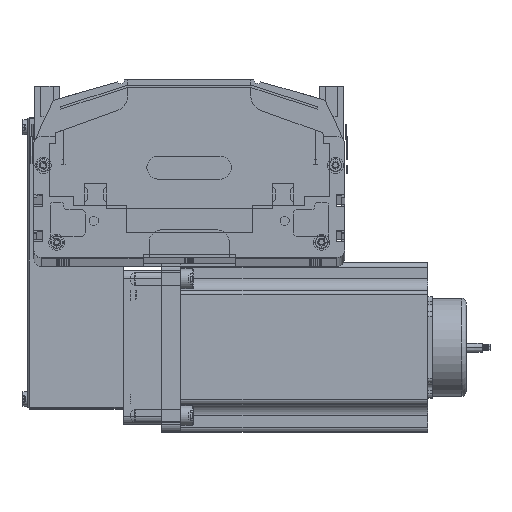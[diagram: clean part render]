
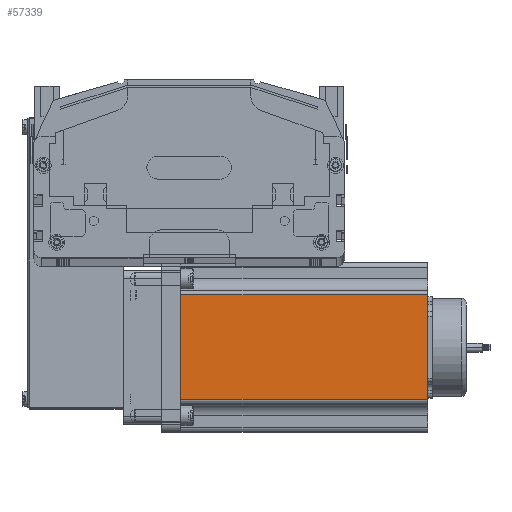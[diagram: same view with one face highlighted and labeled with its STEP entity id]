
A CAD part, top view. The second image highlights one B-rep face of the part: STEP entity #57339.
In plain terms, the highlighted planar face has unit normal (0, 0, 1) as drawn and (0, -1, 0) by its records, which use the part's own axes.
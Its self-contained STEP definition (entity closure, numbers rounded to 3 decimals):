
#31147 = PLANE ( 'NONE',  #31797 ) ;
#31797 = AXIS2_PLACEMENT_3D ( 'NONE', #31800, #31927, #31921 ) ;
#31800 = CARTESIAN_POINT ( 'NONE',  ( 0., 0., 160.5 ) ) ;
#31921 = DIRECTION ( 'NONE',  ( 0., 0., 1. ) ) ;
#31925 = FACE_OUTER_BOUND ( 'NONE', #81401, .T. ) ;
#31927 = DIRECTION ( 'NONE',  ( 0., 1., 0. ) ) ;
#32128 = CARTESIAN_POINT ( 'NONE',  ( 88.952, 0., 160.5 ) ) ;
#32130 = LINE ( 'NONE', #32128, #32216 ) ;
#32154 = CARTESIAN_POINT ( 'NONE',  ( 21.048, 0., 160.5 ) ) ;
#32156 = CARTESIAN_POINT ( 'NONE',  ( 88.952, 0., 160.5 ) ) ;
#32201 = DIRECTION ( 'NONE',  ( 0., 0., 1. ) ) ;
#32214 = DIRECTION ( 'NONE',  ( 1., 0., 0. ) ) ;
#32216 = VECTOR ( 'NONE', #32201, 1000. ) ;
#32220 = VECTOR ( 'NONE', #32214, 1000. ) ;
#32221 = CARTESIAN_POINT ( 'NONE',  ( 0., 0., 160.5 ) ) ;
#32223 = LINE ( 'NONE', #32221, #32220 ) ;
#32489 = CARTESIAN_POINT ( 'NONE',  ( 21.048, 0., 0. ) ) ;
#32611 = CARTESIAN_POINT ( 'NONE',  ( 88.952, 0., 0. ) ) ;
#32716 = DIRECTION ( 'NONE',  ( 1., 0., 0. ) ) ;
#32717 = VECTOR ( 'NONE', #32716, 1000. ) ;
#32719 = CARTESIAN_POINT ( 'NONE',  ( 0., 0., 0. ) ) ;
#32725 = LINE ( 'NONE', #32719, #32717 ) ;
#34382 = CARTESIAN_POINT ( 'NONE',  ( 21.048, 0., 160.5 ) ) ;
#34399 = LINE ( 'NONE', #34382, #34519 ) ;
#34519 = VECTOR ( 'NONE', #34530, 1000. ) ;
#34530 = DIRECTION ( 'NONE',  ( 0., 0., -1. ) ) ;
#56565 = VERTEX_POINT ( 'NONE', #32154 ) ;
#56568 = VERTEX_POINT ( 'NONE', #32156 ) ;
#56933 = EDGE_CURVE ( 'NONE', #56565, #56568, #32223, .T. ) ;
#56937 = ORIENTED_EDGE ( 'NONE', *, *, #57817, .T. ) ;
#56944 = ORIENTED_EDGE ( 'NONE', *, *, #56955, .T. ) ;
#56955 = EDGE_CURVE ( 'NONE', #57481, #56568, #32130, .T. ) ;
#57121 = ORIENTED_EDGE ( 'NONE', *, *, #60062, .T. ) ;
#57339 = ADVANCED_FACE ( 'NONE', ( #31925 ), #31147, .F. ) ;
#57480 = VERTEX_POINT ( 'NONE', #32489 ) ;
#57481 = VERTEX_POINT ( 'NONE', #32611 ) ;
#57817 = EDGE_CURVE ( 'NONE', #57480, #57481, #32725, .T. ) ;
#60062 = EDGE_CURVE ( 'NONE', #56565, #57480, #34399, .T. ) ;
#60068 = ORIENTED_EDGE ( 'NONE', *, *, #56933, .F. ) ;
#81401 = EDGE_LOOP ( 'NONE', ( #56937, #56944, #60068, #57121 ) ) ;
